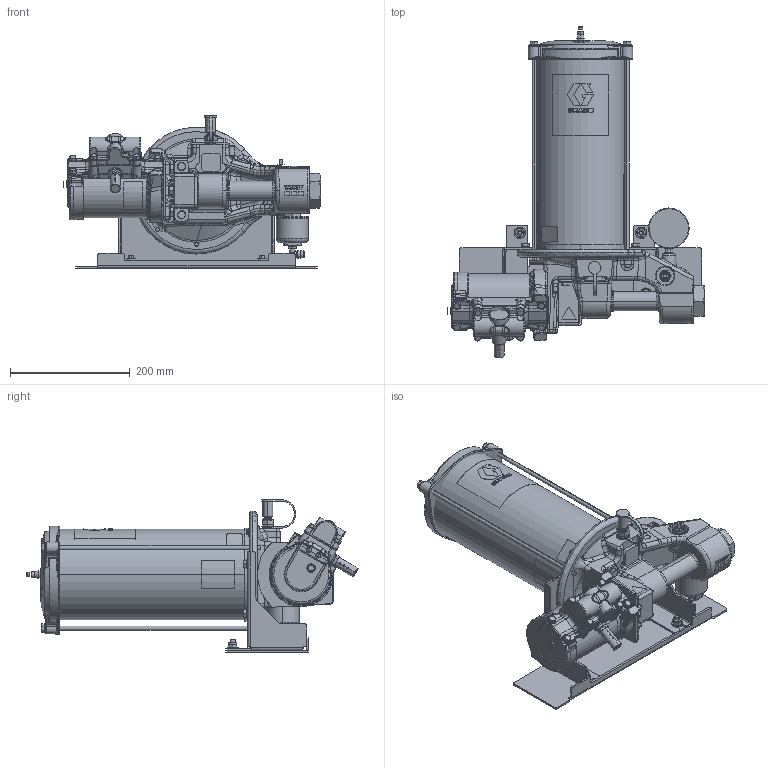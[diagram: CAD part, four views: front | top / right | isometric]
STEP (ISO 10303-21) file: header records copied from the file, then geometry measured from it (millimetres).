
FILE_DESCRIPTION((''),'2;1');
FILE_NAME('17P750-EN-N_PRT','2022-02-14T10:52:15',('qtmwp1'),(''),'CREO PARAMETRIC BY PTC INC, 2021072','CREO PARAMETRIC BY PTC INC, 2021072','');
FILE_SCHEMA(('CONFIG_CONTROL_DESIGN'));
Length unit declared in the file: inch
Products named in the file (1): 17P750-EN-N_PRT
Bounding box: 430.15 x 555.53 x 255.46 mm (x, y, z)
Surface area: 849013.1 mm2 (no closed solid volume)
Topology: 0 solids, 183 shells, 1839 faces, 6378 edges, 4518 vertices
Faces by surface type: plane 701, cylinder 438, bspline 282, cone 281, torus 106, sphere 31
Entity records: 88772 total; most frequent: CARTESIAN_POINT 39598, ORIENTED_EDGE 9673, DIRECTION 9140, EDGE_CURVE 6367, VERTEX_POINT 4518, AXIS2_PLACEMENT_3D 3253, VECTOR 2634, LINE 2634
